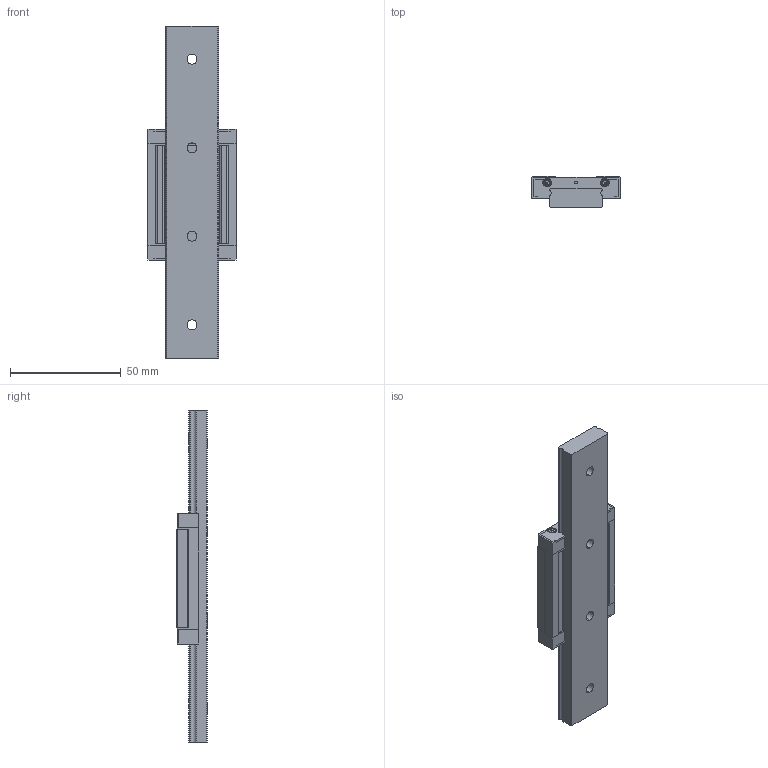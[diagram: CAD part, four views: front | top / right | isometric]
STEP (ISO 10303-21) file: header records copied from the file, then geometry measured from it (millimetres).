
FILE_DESCRIPTION (( 'STEP AP214' ), '1' );
FILE_NAME ('FBXX12WH-SS.STEP', '2022-08-06T22:00:06', ( 'JST' ), ( 'JST' ), 'SwSTEP 2.0', 'SolidWorks 2016', '' );
FILE_SCHEMA (( 'AUTOMOTIVE_DESIGN' ));
Length unit declared in the file: millimetre
Products named in the file (8): 12WH悜遠釱; 12WH-SS賑輸; 12WH-SS滅鳥え; 12W絳寢; M2蹟佪; 12WH賑輸; 12WH傷裔; FBXX12WH-SS
Assembly tree (12 placements, depth 3):
  FBXX12WH-SS
    12W絳寢
    12WH-SS賑輸
      12WH賑輸
      12WH-SS滅鳥え  x2
      M2蹟佪  x4
      12WH傷裔  x2
      12WH悜遠釱
Bounding box: 40 x 14 x 150 mm (x, y, z)
Volume: 44874.2 mm3; surface area: 22961.1 mm2
Topology: 11 solids, 11 shells, 546 faces, 1486 edges, 976 vertices
Faces by surface type: cylinder 271, plane 231, cone 24, bspline 12, torus 8
Entity records: 11474 total; most frequent: CARTESIAN_POINT 4280, ORIENTED_EDGE 1474, DIRECTION 1407, EDGE_CURVE 737, VERTEX_POINT 484, LINE 473, VECTOR 473, AXIS2_PLACEMENT_3D 467
